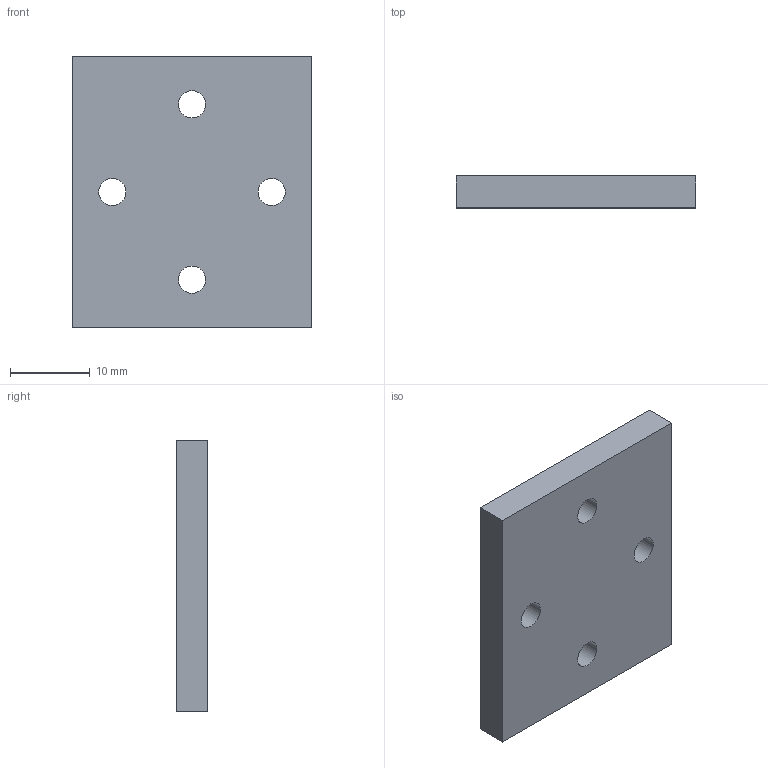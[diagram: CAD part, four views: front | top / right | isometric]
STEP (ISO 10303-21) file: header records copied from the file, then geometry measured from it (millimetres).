
FILE_DESCRIPTION(('Open CASCADE Model'),'2;1');
FILE_NAME('Open CASCADE Shape Model','2026-11-08T04:10:21',('Author'),( 'Open CASCADE'),'Open CASCADE STEP processor 7.8','Open CASCADE 7.8' ,'Unknown');
FILE_SCHEMA(('AUTOMOTIVE_DESIGN { 1 0 10303 214 1 1 1 1 }'));
Length unit declared in the file: millimetre
Products named in the file (1): Open CASCADE STEP translator 7.8 3
Bounding box: 30 x 4 x 34 mm (x, y, z)
Volume: 3934.7 mm3; surface area: 2650.3 mm2
Topology: 1 solids, 1 shells, 10 faces, 24 edges, 16 vertices
Faces by surface type: plane 6, cylinder 4
Full cylindrical faces by diameter (mm): 3.4 x4
Entity records: 634 total; most frequent: DIRECTION 102, CARTESIAN_POINT 99, LINE 56, VECTOR 56, ORIENTED_EDGE 48, PCURVE 48, DEFINITIONAL_REPRESENTATION 48, EDGE_CURVE 24
